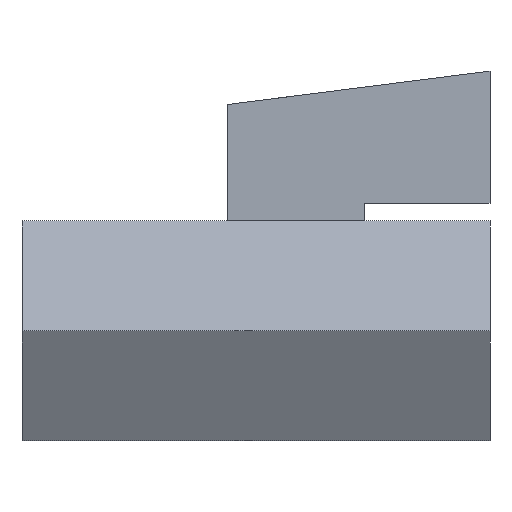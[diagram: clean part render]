
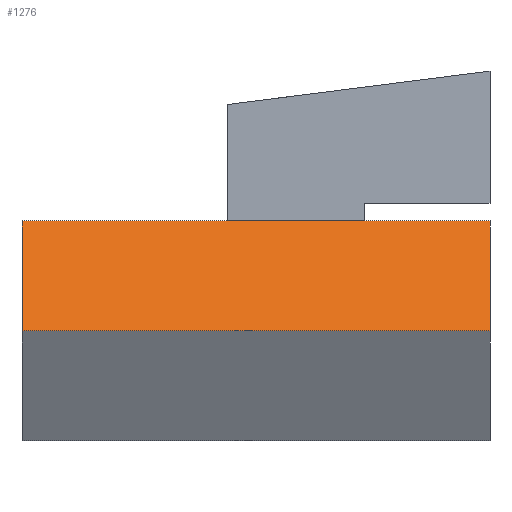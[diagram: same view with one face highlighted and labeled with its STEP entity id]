
A CAD part, front view. The second image highlights one B-rep face of the part: STEP entity #1276.
In plain terms, the highlighted planar face has unit normal (0, -0.866, 0.5).
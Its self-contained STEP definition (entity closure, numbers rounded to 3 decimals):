
#347 = PLANE('',#348);
#348 = AXIS2_PLACEMENT_3D('',#349,#350,#351);
#349 = CARTESIAN_POINT('',(0.,0.,0.491));
#350 = DIRECTION('',(0.,0.,1.));
#351 = DIRECTION('',(0.,1.,0.));
#735 = PLANE('',#736);
#736 = AXIS2_PLACEMENT_3D('',#737,#738,#739);
#737 = CARTESIAN_POINT('',(-2.09,0.,0.
    ));
#738 = DIRECTION('',(1.,0.,0.));
#739 = DIRECTION('',(0.,0.,-1.));
#861 = PLANE('',#862);
#862 = AXIS2_PLACEMENT_3D('',#863,#864,#865);
#863 = CARTESIAN_POINT('',(0.,0.,0.));
#864 = DIRECTION('',(1.,0.,0.));
#865 = DIRECTION('',(0.,0.,-1.));
#1036 = PLANE('',#1037);
#1037 = AXIS2_PLACEMENT_3D('',#1038,#1039,#1040);
#1038 = CARTESIAN_POINT('',(0.,-0.425,-0.246));
#1039 = DIRECTION('',(0.,-0.866,-0.5));
#1040 = DIRECTION('',(0.,-0.5,0.866));
#1205 = VERTEX_POINT('',#1206);
#1206 = CARTESIAN_POINT('',(-2.09,-0.283,0.491));
#1227 = EDGE_CURVE('',#1228,#1205,#1230,.T.);
#1228 = VERTEX_POINT('',#1229);
#1229 = CARTESIAN_POINT('',(0.,-0.283,0.491));
#1230 = SURFACE_CURVE('',#1231,(#1235,#1242),.PCURVE_S1.);
#1231 = LINE('',#1232,#1233);
#1232 = CARTESIAN_POINT('',(0.,-0.283,0.491));
#1233 = VECTOR('',#1234,1.);
#1234 = DIRECTION('',(-1.,0.,0.));
#1235 = PCURVE('',#347,#1236);
#1236 = DEFINITIONAL_REPRESENTATION('',(#1237),#1241);
#1237 = LINE('',#1238,#1239);
#1238 = CARTESIAN_POINT('',(-0.283,0.));
#1239 = VECTOR('',#1240,1.);
#1240 = DIRECTION('',(0.,1.));
#1241 = ( GEOMETRIC_REPRESENTATION_CONTEXT(2) 
PARAMETRIC_REPRESENTATION_CONTEXT() REPRESENTATION_CONTEXT('2D SPACE',''
  ) );
#1242 = PCURVE('',#1243,#1248);
#1243 = PLANE('',#1244);
#1244 = AXIS2_PLACEMENT_3D('',#1245,#1246,#1247);
#1245 = CARTESIAN_POINT('',(0.,-0.425,0.246));
#1246 = DIRECTION('',(0.,-0.866,0.5));
#1247 = DIRECTION('',(0.,0.5,0.866));
#1248 = DEFINITIONAL_REPRESENTATION('',(#1249),#1253);
#1249 = LINE('',#1250,#1251);
#1250 = CARTESIAN_POINT('',(0.283,0.));
#1251 = VECTOR('',#1252,1.);
#1252 = DIRECTION('',(0.,1.));
#1253 = ( GEOMETRIC_REPRESENTATION_CONTEXT(2) 
PARAMETRIC_REPRESENTATION_CONTEXT() REPRESENTATION_CONTEXT('2D SPACE',''
  ) );
#1276 = ADVANCED_FACE('',(#1277),#1243,.T.);
#1277 = FACE_BOUND('',#1278,.T.);
#1278 = EDGE_LOOP('',(#1279,#1302,#1325,#1346));
#1279 = ORIENTED_EDGE('',*,*,#1280,.T.);
#1280 = EDGE_CURVE('',#1205,#1281,#1283,.T.);
#1281 = VERTEX_POINT('',#1282);
#1282 = CARTESIAN_POINT('',(-2.09,-0.567,0.));
#1283 = SURFACE_CURVE('',#1284,(#1288,#1295),.PCURVE_S1.);
#1284 = LINE('',#1285,#1286);
#1285 = CARTESIAN_POINT('',(-2.09,-0.567,0.));
#1286 = VECTOR('',#1287,1.);
#1287 = DIRECTION('',(0.,-0.5,-0.866));
#1288 = PCURVE('',#1243,#1289);
#1289 = DEFINITIONAL_REPRESENTATION('',(#1290),#1294);
#1290 = LINE('',#1291,#1292);
#1291 = CARTESIAN_POINT('',(-0.283,2.09));
#1292 = VECTOR('',#1293,1.);
#1293 = DIRECTION('',(-1.,-0.));
#1294 = ( GEOMETRIC_REPRESENTATION_CONTEXT(2) 
PARAMETRIC_REPRESENTATION_CONTEXT() REPRESENTATION_CONTEXT('2D SPACE',''
  ) );
#1295 = PCURVE('',#735,#1296);
#1296 = DEFINITIONAL_REPRESENTATION('',(#1297),#1301);
#1297 = LINE('',#1298,#1299);
#1298 = CARTESIAN_POINT('',(0.,-0.567));
#1299 = VECTOR('',#1300,1.);
#1300 = DIRECTION('',(0.866,-0.5));
#1301 = ( GEOMETRIC_REPRESENTATION_CONTEXT(2) 
PARAMETRIC_REPRESENTATION_CONTEXT() REPRESENTATION_CONTEXT('2D SPACE',''
  ) );
#1302 = ORIENTED_EDGE('',*,*,#1303,.F.);
#1303 = EDGE_CURVE('',#1304,#1281,#1306,.T.);
#1304 = VERTEX_POINT('',#1305);
#1305 = CARTESIAN_POINT('',(0.,-0.567,0.));
#1306 = SURFACE_CURVE('',#1307,(#1311,#1318),.PCURVE_S1.);
#1307 = LINE('',#1308,#1309);
#1308 = CARTESIAN_POINT('',(0.,-0.567,0.));
#1309 = VECTOR('',#1310,1.);
#1310 = DIRECTION('',(-1.,0.,0.));
#1311 = PCURVE('',#1243,#1312);
#1312 = DEFINITIONAL_REPRESENTATION('',(#1313),#1317);
#1313 = LINE('',#1314,#1315);
#1314 = CARTESIAN_POINT('',(-0.283,-0.));
#1315 = VECTOR('',#1316,1.);
#1316 = DIRECTION('',(0.,1.));
#1317 = ( GEOMETRIC_REPRESENTATION_CONTEXT(2) 
PARAMETRIC_REPRESENTATION_CONTEXT() REPRESENTATION_CONTEXT('2D SPACE',''
  ) );
#1318 = PCURVE('',#1036,#1319);
#1319 = DEFINITIONAL_REPRESENTATION('',(#1320),#1324);
#1320 = LINE('',#1321,#1322);
#1321 = CARTESIAN_POINT('',(0.283,0.));
#1322 = VECTOR('',#1323,1.);
#1323 = DIRECTION('',(0.,1.));
#1324 = ( GEOMETRIC_REPRESENTATION_CONTEXT(2) 
PARAMETRIC_REPRESENTATION_CONTEXT() REPRESENTATION_CONTEXT('2D SPACE',''
  ) );
#1325 = ORIENTED_EDGE('',*,*,#1326,.T.);
#1326 = EDGE_CURVE('',#1304,#1228,#1327,.T.);
#1327 = SURFACE_CURVE('',#1328,(#1332,#1339),.PCURVE_S1.);
#1328 = LINE('',#1329,#1330);
#1329 = CARTESIAN_POINT('',(0.,-0.567,0.));
#1330 = VECTOR('',#1331,1.);
#1331 = DIRECTION('',(0.,0.5,0.866));
#1332 = PCURVE('',#1243,#1333);
#1333 = DEFINITIONAL_REPRESENTATION('',(#1334),#1338);
#1334 = LINE('',#1335,#1336);
#1335 = CARTESIAN_POINT('',(-0.283,-0.));
#1336 = VECTOR('',#1337,1.);
#1337 = DIRECTION('',(1.,0.));
#1338 = ( GEOMETRIC_REPRESENTATION_CONTEXT(2) 
PARAMETRIC_REPRESENTATION_CONTEXT() REPRESENTATION_CONTEXT('2D SPACE',''
  ) );
#1339 = PCURVE('',#861,#1340);
#1340 = DEFINITIONAL_REPRESENTATION('',(#1341),#1345);
#1341 = LINE('',#1342,#1343);
#1342 = CARTESIAN_POINT('',(0.,-0.567));
#1343 = VECTOR('',#1344,1.);
#1344 = DIRECTION('',(-0.866,0.5));
#1345 = ( GEOMETRIC_REPRESENTATION_CONTEXT(2) 
PARAMETRIC_REPRESENTATION_CONTEXT() REPRESENTATION_CONTEXT('2D SPACE',''
  ) );
#1346 = ORIENTED_EDGE('',*,*,#1227,.T.);
